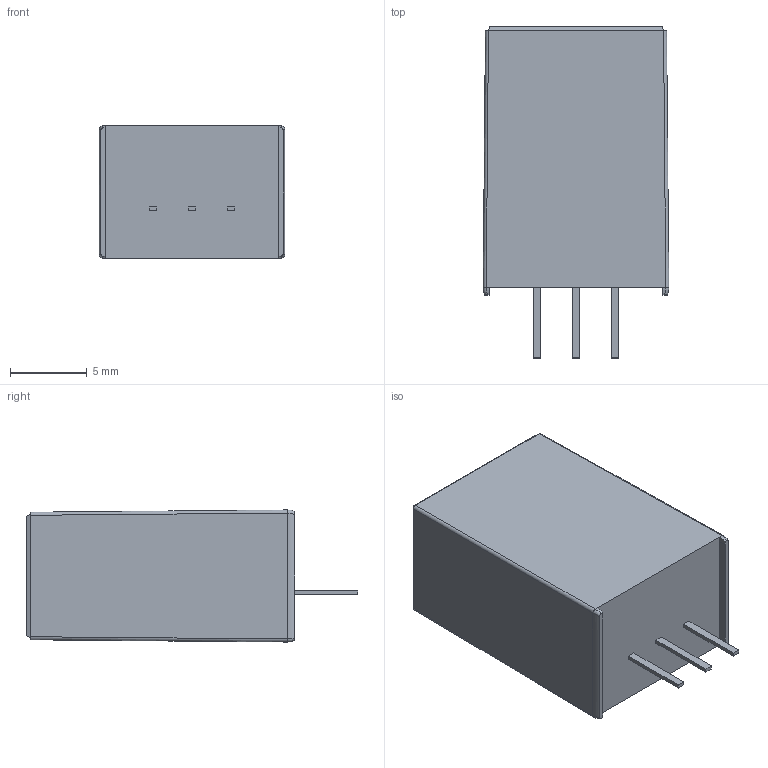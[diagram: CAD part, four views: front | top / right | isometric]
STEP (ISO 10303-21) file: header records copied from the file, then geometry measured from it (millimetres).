
FILE_DESCRIPTION (( 'STEP AP203' ), '1' );
FILE_NAME ('NCS01W8-P成品圖2025.07.28.STEP', '2025-07-28T03:00:12', ( '' ), ( '' ), 'SwSTEP 2.0', 'SolidWorks 2020', '' );
FILE_SCHEMA (( 'CONFIG_CONTROL_DESIGN' ));
Length unit declared in the file: millimetre
Products named in the file (1): NCS01W8-P成品圖2025.07.28
Bounding box: 12.09 x 21.6 x 8.6 mm (x, y, z)
Volume: 1716.4 mm3; surface area: 933.8 mm2
Topology: 1 solids, 1 shells, 54 faces, 128 edges, 80 vertices
Faces by surface type: plane 40, cylinder 10, bspline 4
Entity records: 1645 total; most frequent: CARTESIAN_POINT 371, ORIENTED_EDGE 256, DIRECTION 222, EDGE_CURVE 128, VECTOR 104, LINE 104, VERTEX_POINT 80, AXIS2_PLACEMENT_3D 59
